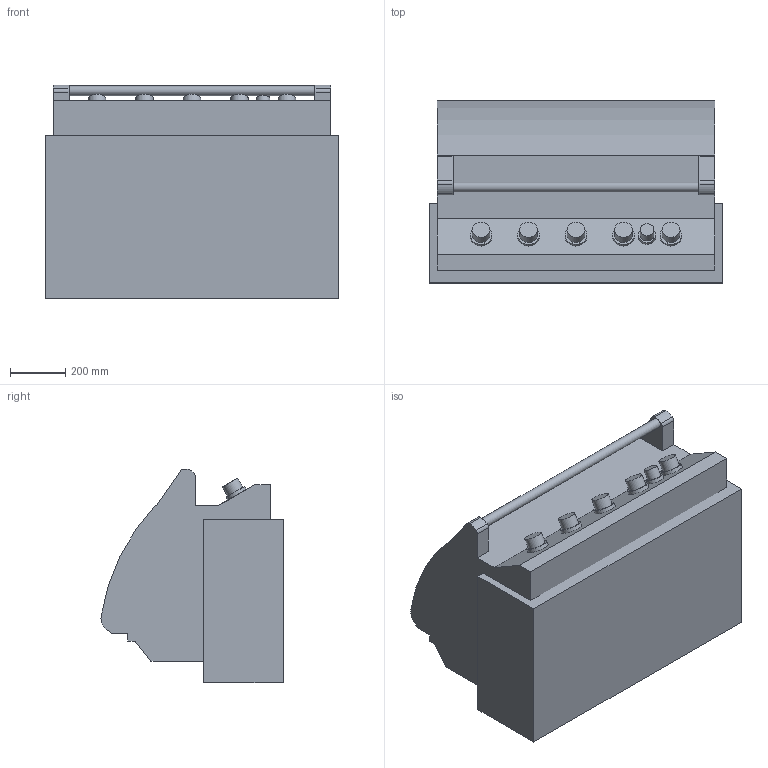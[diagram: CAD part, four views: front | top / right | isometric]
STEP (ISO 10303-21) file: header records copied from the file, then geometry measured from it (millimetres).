
FILE_DESCRIPTION (( 'STEP AP203' ), '1' );
FILE_NAME ('BIG36RB_WITH_LINER.STEP', '2020-04-24T13:42:38', ( '8DNKR52' ), ( 'Microsoft' ), 'SwSTEP 2.0', 'SolidWorks 2019', '' );
FILE_SCHEMA (( 'CONFIG_CONTROL_DESIGN' ));
Length unit declared in the file: inch
Products named in the file (1): BIG36RB_WITH_LINER
Bounding box: 1060.45 x 657.94 x 773.26 mm (x, y, z)
Volume: 477975104.4 mm3; surface area: 5282611.2 mm2
Topology: 2 solids, 2 shells, 63 faces, 148 edges, 101 vertices
Faces by surface type: plane 42, cylinder 21
Full cylindrical faces by diameter (mm): 34.925 x1, 49.213 x1, 63.5 x6, 77.787 x5
Entity records: 1773 total; most frequent: DIRECTION 298, CARTESIAN_POINT 286, ORIENTED_EDGE 256, EDGE_CURVE 128, AXIS2_PLACEMENT_3D 106, VERTEX_POINT 94, EDGE_LOOP 90, LINE 86
